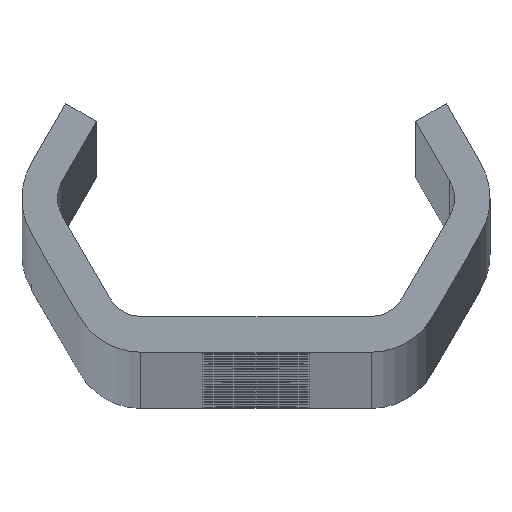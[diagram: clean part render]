
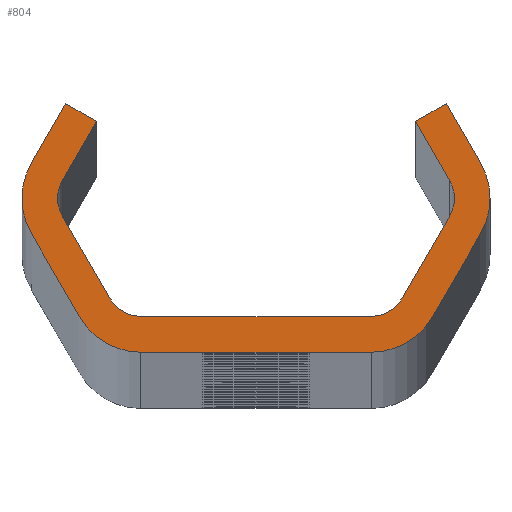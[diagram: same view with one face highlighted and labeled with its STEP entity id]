
A CAD part, top view. The second image highlights one B-rep face of the part: STEP entity #804.
In plain terms, the highlighted planar face has unit normal (0, 0, 1).
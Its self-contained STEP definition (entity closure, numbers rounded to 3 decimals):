
#804=ADVANCED_FACE('NONE',(#2244),#2245,.F.);
#2244=FACE_OUTER_BOUND('',#7336,.T.);
#2245=PLANE('',#7337);
#7336=EDGE_LOOP('',(#14882,#14883,#14884,#14885,#14886,#14887,#14888,#14889,#14890,#14891,#14892,#14893,#14894,#14895,#14896,#14897,#14898,#14899,#14900,#14901,#14902,#14903,#14904,#14905));
#7337=AXIS2_PLACEMENT_3D('',#14906,#14907,#14908);
#14882=ORIENTED_EDGE('',*,*,#19869,.T.);
#14883=ORIENTED_EDGE('',*,*,#19914,.T.);
#14884=ORIENTED_EDGE('',*,*,#19456,.T.);
#14885=ORIENTED_EDGE('',*,*,#19871,.T.);
#14886=ORIENTED_EDGE('',*,*,#19915,.T.);
#14887=ORIENTED_EDGE('',*,*,#19875,.T.);
#14888=ORIENTED_EDGE('',*,*,#19916,.T.);
#14889=ORIENTED_EDGE('',*,*,#19463,.T.);
#14890=ORIENTED_EDGE('',*,*,#19917,.T.);
#14891=ORIENTED_EDGE('',*,*,#19099,.T.);
#14892=ORIENTED_EDGE('',*,*,#19466,.T.);
#14893=ORIENTED_EDGE('',*,*,#19472,.T.);
#14894=ORIENTED_EDGE('',*,*,#19475,.T.);
#14895=ORIENTED_EDGE('',*,*,#19453,.T.);
#14896=ORIENTED_EDGE('',*,*,#19918,.T.);
#14897=ORIENTED_EDGE('',*,*,#19477,.T.);
#14898=ORIENTED_EDGE('',*,*,#19919,.T.);
#14899=ORIENTED_EDGE('',*,*,#19484,.T.);
#14900=ORIENTED_EDGE('',*,*,#19920,.T.);
#14901=ORIENTED_EDGE('',*,*,#19856,.T.);
#14902=ORIENTED_EDGE('',*,*,#19921,.T.);
#14903=ORIENTED_EDGE('',*,*,#19094,.T.);
#14904=ORIENTED_EDGE('',*,*,#19859,.T.);
#14905=ORIENTED_EDGE('',*,*,#19865,.T.);
#14906=CARTESIAN_POINT('',(0.0,0.0,2720.0));
#14907=DIRECTION('',(0.0,0.0,-1.0));
#14908=DIRECTION('',(0.0,-1.0,0.0));
#19094=EDGE_CURVE('NONE',#21272,#21276,#21278,.T.);
#19099=EDGE_CURVE('NONE',#21281,#21285,#21287,.T.);
#19453=EDGE_CURVE('NONE',#21924,#21922,#21925,.T.);
#19456=EDGE_CURVE('NONE',#21928,#21929,#21930,.T.);
#19463=EDGE_CURVE('NONE',#21942,#21940,#21943,.T.);
#19466=EDGE_CURVE('NONE',#21285,#21946,#21947,.T.);
#19472=EDGE_CURVE('NONE',#21946,#21954,#21956,.T.);
#19475=EDGE_CURVE('NONE',#21954,#21924,#21959,.T.);
#19477=EDGE_CURVE('NONE',#21961,#21962,#21963,.T.);
#19484=EDGE_CURVE('NONE',#21975,#21973,#21976,.T.);
#19856=EDGE_CURVE('NONE',#22666,#22664,#22667,.T.);
#19859=EDGE_CURVE('NONE',#21276,#22670,#22671,.T.);
#19865=EDGE_CURVE('NONE',#22670,#22678,#22680,.T.);
#19869=EDGE_CURVE('NONE',#22678,#22684,#22686,.T.);
#19871=EDGE_CURVE('NONE',#21929,#22688,#22689,.T.);
#19875=EDGE_CURVE('NONE',#22694,#22695,#22696,.T.);
#19914=EDGE_CURVE('NONE',#22684,#21928,#22737,.T.);
#19915=EDGE_CURVE('NONE',#22688,#22694,#22738,.T.);
#19916=EDGE_CURVE('NONE',#22695,#21942,#22739,.T.);
#19917=EDGE_CURVE('NONE',#21940,#21281,#22740,.T.);
#19918=EDGE_CURVE('NONE',#21922,#21961,#22741,.T.);
#19919=EDGE_CURVE('NONE',#21962,#21975,#22742,.T.);
#19920=EDGE_CURVE('NONE',#21973,#22666,#22743,.T.);
#19921=EDGE_CURVE('NONE',#22664,#21272,#22744,.T.);
#21272=VERTEX_POINT('',#24500);
#21276=VERTEX_POINT('NONE',#24505);
#21278=CIRCLE('',#24508,3.0);
#21281=VERTEX_POINT('',#24511);
#21285=VERTEX_POINT('NONE',#24516);
#21287=CIRCLE('',#24519,6.0);
#21922=VERTEX_POINT('NONE',#28372);
#21924=VERTEX_POINT('NONE',#28375);
#21925=CIRCLE('',#28376,3.0);
#21928=VERTEX_POINT('NONE',#28380);
#21929=VERTEX_POINT('NONE',#28381);
#21930=CIRCLE('',#28382,6.0);
#21940=VERTEX_POINT('NONE',#28395);
#21942=VERTEX_POINT('NONE',#28398);
#21943=LINE('',#28399,#28400);
#21946=VERTEX_POINT('NONE',#28404);
#21947=LINE('',#28405,#28406);
#21954=VERTEX_POINT('NONE',#28416);
#21956=LINE('',#28419,#28420);
#21959=LINE('',#28424,#28425);
#21961=VERTEX_POINT('NONE',#28427);
#21962=VERTEX_POINT('NONE',#28428);
#21963=LINE('',#28429,#28430);
#21973=VERTEX_POINT('NONE',#28444);
#21975=VERTEX_POINT('NONE',#28447);
#21976=LINE('',#28448,#28449);
#22664=VERTEX_POINT('NONE',#30939);
#22666=VERTEX_POINT('NONE',#30942);
#22667=LINE('',#30943,#30944);
#22670=VERTEX_POINT('NONE',#30948);
#22671=LINE('',#30949,#30950);
#22678=VERTEX_POINT('NONE',#30960);
#22680=LINE('',#30963,#30964);
#22684=VERTEX_POINT('NONE',#30969);
#22686=LINE('',#30972,#30973);
#22688=VERTEX_POINT('NONE',#30975);
#22689=LINE('',#30976,#30977);
#22694=VERTEX_POINT('NONE',#30984);
#22695=VERTEX_POINT('NONE',#30985);
#22696=LINE('',#30986,#30987);
#22737=CIRCLE('',#31031,6.0);
#22738=CIRCLE('',#31032,6.0);
#22739=CIRCLE('',#31033,6.0);
#22740=CIRCLE('',#31034,6.0);
#22741=CIRCLE('',#31035,3.0);
#22742=CIRCLE('',#31036,3.0);
#22743=CIRCLE('',#31037,3.0);
#22744=CIRCLE('',#31038,3.0);
#24500=CARTESIAN_POINT('',(-16.764,0.,2720.0));
#24505=CARTESIAN_POINT('',(-16.362,1.5,2720.0));
#24508=AXIS2_PLACEMENT_3D('',#36847,#36848,#36849);
#24511=CARTESIAN_POINT('',(19.764,0.,2720.0));
#24516=CARTESIAN_POINT('',(18.96,3.,2720.0));
#24519=AXIS2_PLACEMENT_3D('',#36855,#36856,#36857);
#28372=CARTESIAN_POINT('',(16.764,0.,2720.0));
#28375=CARTESIAN_POINT('',(16.362,1.5,2720.0));
#28376=AXIS2_PLACEMENT_3D('',#37206,#37207,#37208);
#28380=CARTESIAN_POINT('',(-19.764,0.,2720.0));
#28381=CARTESIAN_POINT('',(-18.96,-3.,2720.0));
#28382=AXIS2_PLACEMENT_3D('',#37210,#37211,#37212);
#28395=CARTESIAN_POINT('',(18.96,-3.,2720.0));
#28398=CARTESIAN_POINT('',(14.919,-10.,2720.0));
#28399=CARTESIAN_POINT('',(20.692,0.,2720.0));
#28400=VECTOR('',#37220,1000.0);
#28404=CARTESIAN_POINT('',(16.074,8.,2720.0));
#28405=CARTESIAN_POINT('',(16.074,8.,2720.0));
#28406=VECTOR('',#37222,1000.0);
#28416=CARTESIAN_POINT('',(13.475,6.5,2720.0));
#28419=CARTESIAN_POINT('',(13.475,6.5,2720.0));
#28420=VECTOR('',#37227,1000.0);
#28424=CARTESIAN_POINT('',(17.228,0.,2720.0));
#28425=VECTOR('',#37229,1000.0);
#28427=CARTESIAN_POINT('',(16.362,-1.5,2720.0));
#28428=CARTESIAN_POINT('',(12.321,-8.5,2720.0));
#28429=CARTESIAN_POINT('',(11.455,-10.0,2720.0));
#28430=VECTOR('',#37230,1000.0);
#28444=CARTESIAN_POINT('',(-9.723,-10.0,2720.0));
#28447=CARTESIAN_POINT('',(9.723,-10.0,2720.0));
#28448=CARTESIAN_POINT('',(-11.455,-10.0,2720.0));
#28449=VECTOR('',#37236,1000.0);
#30939=CARTESIAN_POINT('',(-16.362,-1.5,2720.0));
#30942=CARTESIAN_POINT('',(-12.321,-8.5,2720.0));
#30943=CARTESIAN_POINT('',(-17.228,0.,2720.0));
#30944=VECTOR('',#37639,1000.0);
#30948=CARTESIAN_POINT('',(-13.475,6.5,2720.0));
#30949=CARTESIAN_POINT('',(-13.475,6.5,2720.0));
#30950=VECTOR('',#37641,1000.0);
#30960=CARTESIAN_POINT('',(-16.074,8.,2720.0));
#30963=CARTESIAN_POINT('',(-13.475,6.5,2720.0));
#30964=VECTOR('',#37646,1000.0);
#30969=CARTESIAN_POINT('',(-18.96,3.,2720.0));
#30972=CARTESIAN_POINT('',(-16.074,8.,2720.0));
#30973=VECTOR('',#37649,1000.0);
#30975=CARTESIAN_POINT('',(-14.919,-10.,2720.0));
#30976=CARTESIAN_POINT('',(-20.692,0.,2720.0));
#30977=VECTOR('',#37650,1000.0);
#30984=CARTESIAN_POINT('',(-9.723,-13.0,2720.0));
#30985=CARTESIAN_POINT('',(9.723,-13.0,2720.0));
#30986=CARTESIAN_POINT('',(-13.187,-13.0,2720.0));
#30987=VECTOR('',#37653,1000.0);
#31031=AXIS2_PLACEMENT_3D('',#37759,#37760,#37761);
#31032=AXIS2_PLACEMENT_3D('',#37762,#37763,#37764);
#31033=AXIS2_PLACEMENT_3D('',#37765,#37766,#37767);
#31034=AXIS2_PLACEMENT_3D('',#37768,#37769,#37770);
#31035=AXIS2_PLACEMENT_3D('',#37771,#37772,#37773);
#31036=AXIS2_PLACEMENT_3D('',#37774,#37775,#37776);
#31037=AXIS2_PLACEMENT_3D('',#37777,#37778,#37779);
#31038=AXIS2_PLACEMENT_3D('',#37780,#37781,#37782);
#36847=CARTESIAN_POINT('',(-13.764,0.,2720.0));
#36848=DIRECTION('',(0.0,0.0,-1.0));
#36849=DIRECTION('',(-1.0,0.0,0.0));
#36855=CARTESIAN_POINT('',(13.764,0.,2720.0));
#36856=DIRECTION('',(0.0,0.0,1.0));
#36857=DIRECTION('',(-1.0,0.0,0.0));
#37206=CARTESIAN_POINT('',(13.764,0.,2720.0));
#37207=DIRECTION('',(0.0,0.0,-1.0));
#37208=DIRECTION('',(-1.0,0.0,0.0));
#37210=CARTESIAN_POINT('',(-13.764,0.,2720.0));
#37211=DIRECTION('',(0.0,0.0,1.0));
#37212=DIRECTION('',(-1.0,0.0,0.0));
#37220=DIRECTION('',(0.5,0.866,-0.0));
#37222=DIRECTION('',(-0.5,0.866,-0.0));
#37227=DIRECTION('',(-0.866,-0.5,-0.0));
#37229=DIRECTION('',(0.5,-0.866,-0.0));
#37230=DIRECTION('',(-0.5,-0.866,-0.0));
#37236=DIRECTION('',(-1.0,0.,-0.0));
#37639=DIRECTION('',(-0.5,0.866,-0.0));
#37641=DIRECTION('',(0.5,0.866,-0.0));
#37646=DIRECTION('',(-0.866,0.5,0.0));
#37649=DIRECTION('',(-0.5,-0.866,0.0));
#37650=DIRECTION('',(0.5,-0.866,0.0));
#37653=DIRECTION('',(1.0,0.0,0.0));
#37759=CARTESIAN_POINT('',(-13.764,0.,2720.0));
#37760=DIRECTION('',(0.0,0.0,1.0));
#37761=DIRECTION('',(-1.0,0.0,0.0));
#37762=CARTESIAN_POINT('',(-9.723,-7.0,2720.0));
#37763=DIRECTION('',(0.0,0.0,1.0));
#37764=DIRECTION('',(-1.0,0.0,0.0));
#37765=CARTESIAN_POINT('',(9.723,-7.0,2720.0));
#37766=DIRECTION('',(0.0,0.0,1.0));
#37767=DIRECTION('',(-1.0,0.,0.0));
#37768=CARTESIAN_POINT('',(13.764,0.,2720.0));
#37769=DIRECTION('',(0.0,0.0,1.0));
#37770=DIRECTION('',(-1.0,0.0,0.0));
#37771=CARTESIAN_POINT('',(13.764,0.,2720.0));
#37772=DIRECTION('',(0.0,0.0,-1.0));
#37773=DIRECTION('',(-1.0,0.0,0.0));
#37774=CARTESIAN_POINT('',(9.723,-7.0,2720.0));
#37775=DIRECTION('',(0.0,0.0,-1.0));
#37776=DIRECTION('',(-1.0,0.0,0.0));
#37777=CARTESIAN_POINT('',(-9.723,-7.0,2720.0));
#37778=DIRECTION('',(0.0,0.0,-1.0));
#37779=DIRECTION('',(-1.0,0.0,0.0));
#37780=CARTESIAN_POINT('',(-13.764,0.,2720.0));
#37781=DIRECTION('',(0.0,0.0,-1.0));
#37782=DIRECTION('',(-1.0,0.0,0.0));
